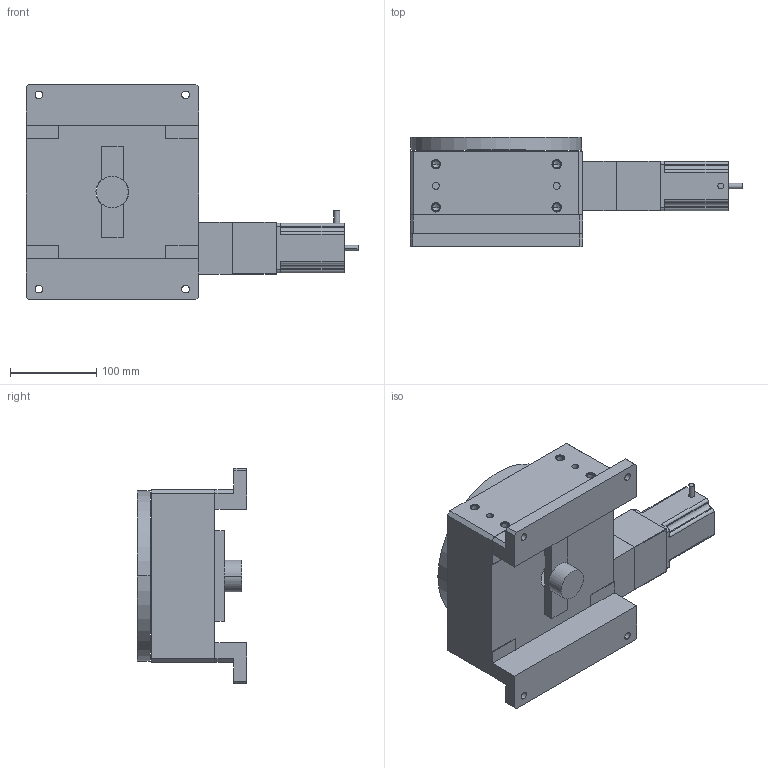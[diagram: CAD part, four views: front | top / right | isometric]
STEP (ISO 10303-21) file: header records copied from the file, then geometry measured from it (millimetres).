
FILE_DESCRIPTION((''),'2;1');
FILE_NAME('R200M7MP3E1_ASM','2009-07-02T',('FK20128'),(''),'PRO/ENGINEER BY PARAMETRIC TECHNOLOGY CORPORATION, 2006200','PRO/ENGINEER BY PARAMETRIC TECHNOLOGY CORPORATION, 2006200','');
FILE_SCHEMA(('CONFIG_CONTROL_DESIGN'));
Length unit declared in the file: millimetre
Products named in the file (8): R200M; R200M-M22; RXXXM-HV233; R200M-ENCODER-BRKT; R200M-ENCODER-STANDOFF; RXXXM-ENCODER; R200M-E1_ASM; R200M7MP3E1_ASM
Assembly tree (8 placements, depth 3):
  R200M7MP3E1_ASM
    R200M
    R200M-M22
    RXXXM-HV233
    R200M-E1_ASM
      R200M-ENCODER-BRKT
      R200M-ENCODER-STANDOFF  x2
      RXXXM-ENCODER
Bounding box: 384.86 x 127 x 250.02 mm (x, y, z)
Volume: 4260117.9 mm3; surface area: 382078.7 mm2
Topology: 8 solids, 28 shells, 364 faces, 908 edges, 594 vertices
Faces by surface type: cylinder 186, plane 136, cone 42
Entity records: 10264 total; most frequent: DIRECTION 1938, CARTESIAN_POINT 1712, ORIENTED_EDGE 1540, EDGE_CURVE 806, AXIS2_PLACEMENT_3D 772, VERTEX_POINT 546, EDGE_LOOP 442, CIRCLE 412
